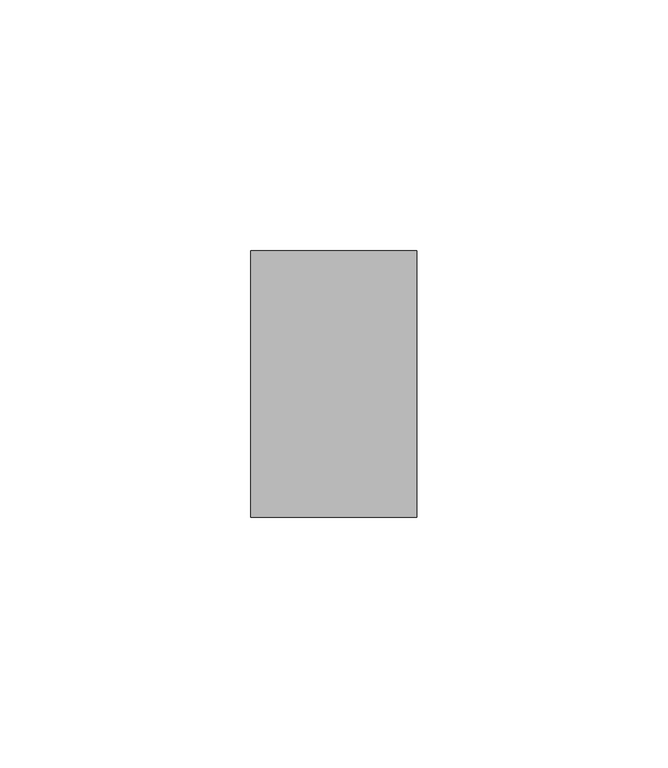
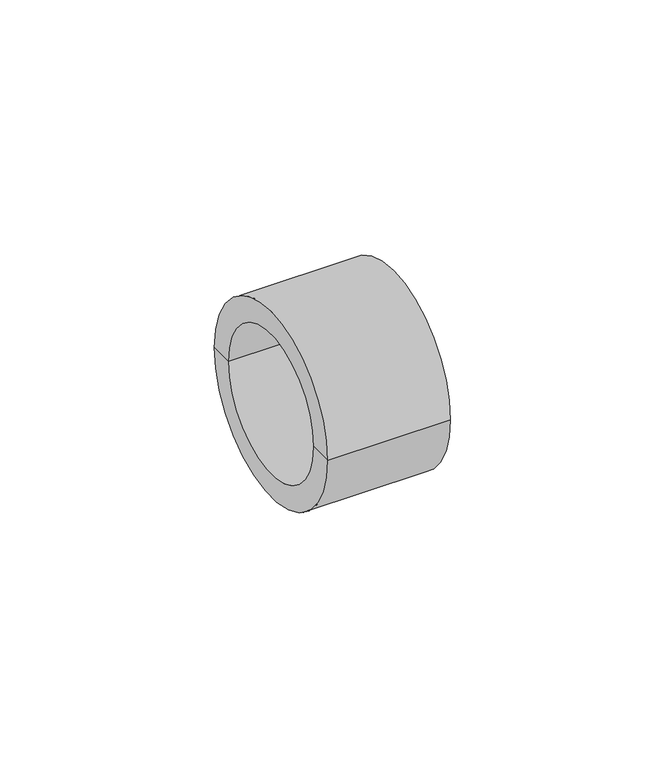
"""IFC4 building model written with IfcOpenShell, lengths in millimetres: pipe fitting geometry, EGB_VASEN_ PPR_Tapon WXR700 : Tapón WXR700."""

from ifc_helpers import new_model, si_unit, frame, origin, place, context, project, spatial, polyline, circle_curve, source, transform, mapped, element, save
from ifc_brep_helpers import plane_surface, cylinder_surface, revolved_surface, advanced_brep


def pipe_fitting_6853c8e6(model_context):
    return source(origin(), model_context, "Body", "AdvancedBrep", [
        advanced_brep(
        [(0.0, -26.5, 0.0), (0.0, 26.5, 0.0), (33.0, 26.5, 0.0), (33.0, -26.5, 0.0), (0.0, -20.0, 0.0), (0.0, 20.0, 0.0), (26.5, -20.0, 0.0), (26.5, 20.0, 0.0), (26.5, 0.0, 0.0), (33.0, 0.0, 0.0)],
        [
            (0, 1, circle_curve(frame((0.0, 0.0, 0.0), z_axis=(1.0, 0.0, 0.0), x_axis=(0.0, 1.0, 0.0)), 26.5)),
            (1, 2),
            (2, 3, circle_curve(frame((33.0, 0.0, 0.0), z_axis=(-1.0, 0.0, 0.0), x_axis=(0.0, 1.0, 0.0)), 26.5)),
            (3, 0),
            (1, 0, circle_curve(frame((0.0, 0.0, 0.0), z_axis=(1.0, 0.0, 0.0), x_axis=(0.0, 1.0, 0.0)), 26.5)),
            (3, 2, circle_curve(frame((33.0, 0.0, 0.0), z_axis=(-1.0, 0.0, 0.0), x_axis=(0.0, 1.0, 0.0)), 26.5)),
            (4, 5, circle_curve(frame((0.0, 0.0, 0.0), z_axis=(1.0, 0.0, 0.0), x_axis=(0.0, 1.0, 0.0)), 20.0)),
            (5, 1),
            (0, 4),
            (5, 4, circle_curve(frame((0.0, 0.0, 0.0), z_axis=(1.0, 0.0, 0.0), x_axis=(0.0, 1.0, 0.0)), 20.0)),
            (6, 7, circle_curve(frame((26.5, 0.0, 0.0), z_axis=(1.0, 0.0, 0.0), x_axis=(0.0, 1.0, 0.0)), 20.0)),
            (7, 5),
            (4, 6),
            (7, 6, circle_curve(frame((26.5, 0.0, 0.0), z_axis=(1.0, 0.0, 0.0), x_axis=(0.0, 1.0, 0.0)), 20.0)),
            (8, 7),
            (6, 8),
            (2, 9),
            (9, 3),
        ],
        [
            cylinder_surface(frame((19.758615, 0.0, 0.0), z_axis=(-1.0, 0.0, 0.0), x_axis=(0.0, 1.0, 0.0)), 26.5),
            plane_surface(frame((0.0, 0.0, 0.0), z_axis=(-1.0, 0.0, 0.0), x_axis=(0.0, 1.0, 0.0))),
            revolved_surface(polyline([(0.0, 20.0, 0.0), (26.5, 20.0, 0.0)]), (19.758615, 0.0, 0.0), (-1.0, 0.0, 0.0)),
            plane_surface(frame((26.5, 0.0, 0.0), z_axis=(-1.0, 0.0, 0.0), x_axis=(0.0, 1.0, 0.0))),
            plane_surface(frame((33.0, 0.0, 0.0), z_axis=(1.0, 0.0, 0.0), x_axis=(0.0, 1.0, 0.0))),
        ],
        [
            (0, [[1, 2, 3, 4]]),
            (0, [[5, -4, 6, -2]]),
            (1, [[7, 8, -1, 9]]),
            (1, [[10, -9, -5, -8]]),
            (2, [[11, 12, -7, 13]]),
            (2, [[14, -13, -10, -12]]),
            (3, [[15, -11, 16]]),
            (3, [[-16, -14, -15]]),
            (4, [[-3, 17, 18]]),
            (4, [[-6, -18, -17]]),
        ],
    ),
    ])


if __name__ == "__main__":
    model = new_model("IFC4")
    model_context = context("Model", 3, world=origin())
    ifc_project = project(units=[si_unit("LENGTHUNIT", "METRE", prefix="MILLI")], contexts=[model_context])
    site = spatial("IfcSite", under=ifc_project)
    building = spatial("IfcBuilding", under=site)
    placement = place(None, origin())
    pipe_fitting_shape = pipe_fitting_6853c8e6(model_context)
    element("IfcPipeFitting", 1, ObjectType="EGB_VASEN_ PPR_Tapon WXR700 : Tapón WXR700", at=placement, inside=building, context=model_context, shape_type="MappedRepresentation", body=[
        mapped(pipe_fitting_shape, transform((0.0, 0.0, 0.0), x_axis=(1.0, 0.0, 0.0), y_axis=(0.0, 1.0, 0.0), z_axis=(0.0, 0.0, 1.0))),
    ])
    save(model, "model.ifc")
